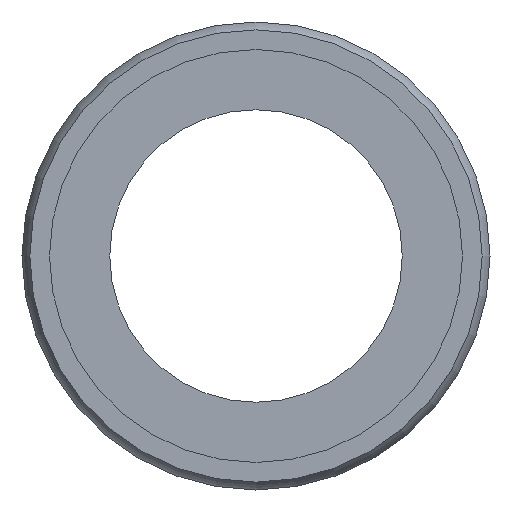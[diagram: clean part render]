
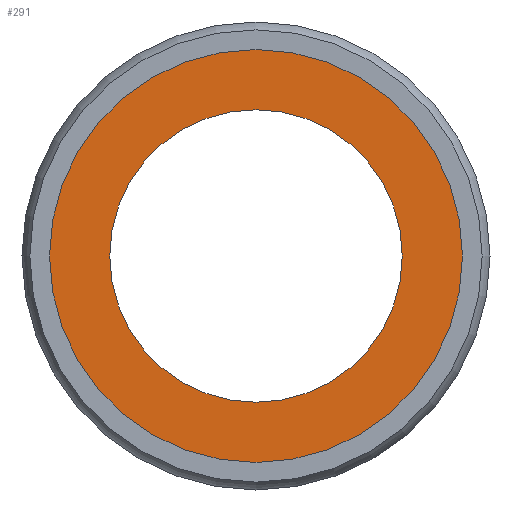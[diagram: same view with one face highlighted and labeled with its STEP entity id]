
A CAD part, left-side view. The second image highlights one B-rep face of the part: STEP entity #291.
In plain terms, the highlighted planar face has unit normal (-1, 0, 0).
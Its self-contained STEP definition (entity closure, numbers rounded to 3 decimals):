
#257=CARTESIAN_POINT('',(0.1,0.0,17.65));
#258=VERTEX_POINT('',#257);
#259=CARTESIAN_POINT('',(0.1,0.0,0.));
#260=DIRECTION('',(-1.0,0.0,0.0));
#261=DIRECTION('',(0.0,0.0,1.0));
#262=AXIS2_PLACEMENT_3D('',#259,#260,#261);
#263=CIRCLE('',#262,17.65);
#264=EDGE_CURVE('',#258,#258,#263,.T.);
#272=CARTESIAN_POINT('',(0.1,0.0,15.075));
#273=DIRECTION('',(-1.0,0.0,0.0));
#274=DIRECTION('',(0.0,0.0,1.0));
#275=AXIS2_PLACEMENT_3D('',#272,#273,#274);
#276=PLANE('',#275);
#277=ORIENTED_EDGE('',*,*,#264,.T.);
#278=EDGE_LOOP('',(#277));
#279=FACE_OUTER_BOUND('',#278,.T.);
#280=CARTESIAN_POINT('',(0.1,0.0,12.5));
#281=VERTEX_POINT('',#280);
#282=CARTESIAN_POINT('',(0.1,0.0,0.));
#283=DIRECTION('',(-1.0,0.0,0.0));
#284=DIRECTION('',(0.0,0.0,1.0));
#285=AXIS2_PLACEMENT_3D('',#282,#283,#284);
#286=CIRCLE('',#285,12.5);
#287=EDGE_CURVE('',#281,#281,#286,.T.);
#288=ORIENTED_EDGE('',*,*,#287,.F.);
#289=EDGE_LOOP('',(#288));
#290=FACE_BOUND('',#289,.T.);
#291=ADVANCED_FACE('',(#279,#290),#276,.T.);
